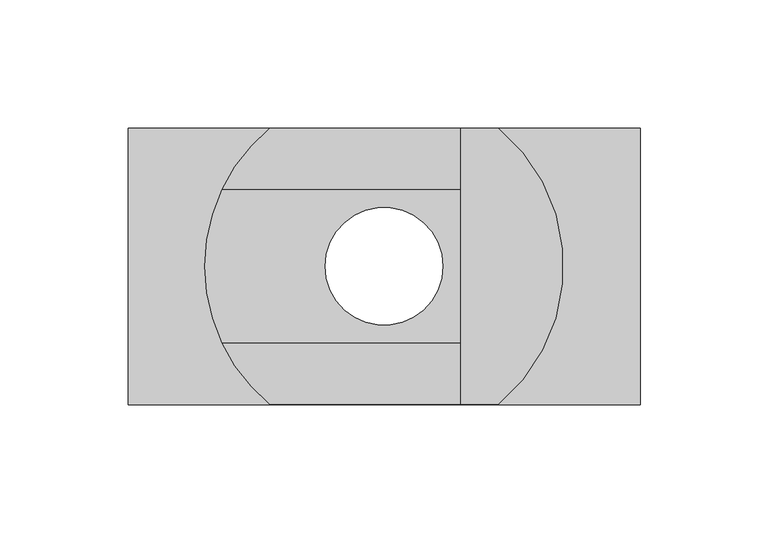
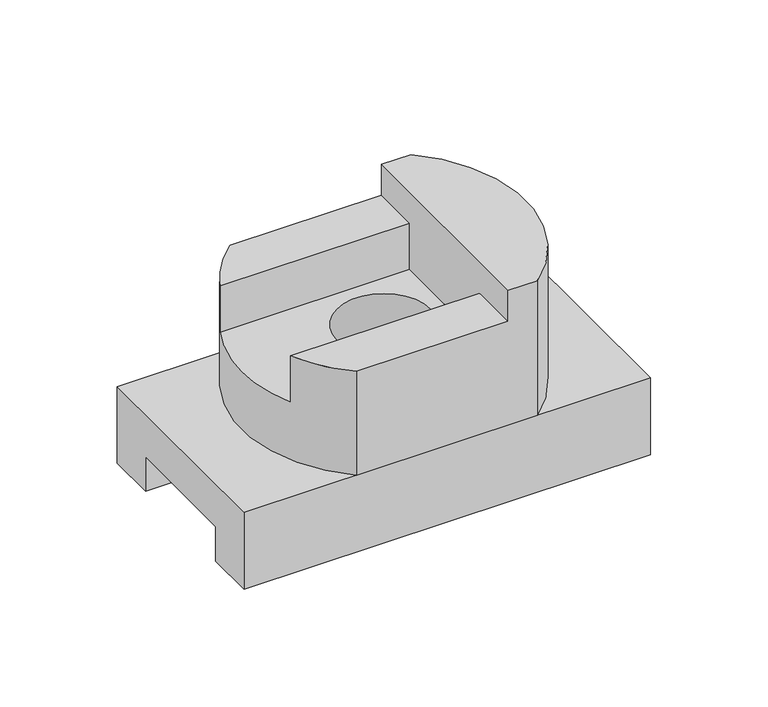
"""IFC4 building model written with IfcOpenShell, lengths in millimetres: proxy geometry, 族5-11-1 : 族5-11-1."""

from ifc_helpers import new_model, si_unit, frame, origin, place, context, project, spatial, polyline, circle_curve, faceted_brep, source, transform, mapped, element, save
from ifc_brep_helpers import plane_surface, cylinder_surface, revolved_surface, advanced_brep


def generic_models_49068c69(model_context):
    return source(origin(), model_context, "Body", "SolidModel", [
        advanced_brep(
        [(44.5421149, -54.0, 110.0), (44.5421149, 54.0, 110.0), (30.0, 54.0, 110.0), (30.0, -54.0, 110.0), (44.5421149, 54.0, 40.0), (44.5421149, -54.0, 40.0), (-44.5421149, -54.0, 40.0), (-44.5421149, 54.0, 40.0), (-23.0, 0.0, 40.0), (23.0, 0.0, 40.0), (-44.5421149, 54.0, 94.0), (30.0, 54.0, 94.0), (-44.5421149, -54.0, 94.0), (-63.2455532, -30.0, 94.0), (-63.2455532, -30.0, 70.0), (-70.0, 0.0, 70.0), (-63.2455532, 30.0, 70.0), (-63.2455532, 30.0, 94.0), (30.0, -54.0, 94.0), (-23.0, 0.0, 70.0), (23.0, 0.0, 70.0), (30.0, 30.0, 94.0), (30.0, 30.0, 70.0), (30.0, -30.0, 70.0), (30.0, -30.0, 94.0)],
        [
            (0, 1, circle_curve(frame((0.0, 0.0, 110.0), z_axis=(0.0, 0.0, 1.0), x_axis=(1.0, 0.0, 0.0)), 70.0)),
            (1, 2),
            (2, 3),
            (3, 0),
            (4, 5, circle_curve(frame((0.0, 0.0, 40.0), z_axis=(0.0, 0.0, -1.0), x_axis=(1.0, 0.0, 0.0)), 70.0)),
            (5, 6),
            (6, 7, circle_curve(frame((0.0, 0.0, 40.0), z_axis=(0.0, 0.0, -1.0), x_axis=(1.0, 0.0, 0.0)), 70.0)),
            (7, 4),
            (8, 9, circle_curve(frame((0.0, 0.0, 40.0), z_axis=(0.0, 0.0, 1.0), x_axis=(1.0, 0.0, 0.0)), 23.0)),
            (9, 8, circle_curve(frame((0.0, 0.0, 40.0), z_axis=(0.0, 0.0, 1.0), x_axis=(1.0, 0.0, 0.0)), 23.0)),
            (7, 10),
            (10, 11),
            (11, 2),
            (1, 4),
            (6, 12),
            (12, 13, circle_curve(frame((0.0, 0.0, 94.0), z_axis=(0.0, 0.0, -1.0), x_axis=(1.0, 0.0, 0.0)), 70.0)),
            (13, 14),
            (14, 15, circle_curve(frame((0.0, 0.0, 70.0), z_axis=(0.0, 0.0, -1.0), x_axis=(1.0, 0.0, 0.0)), 70.0)),
            (15, 16, circle_curve(frame((0.0, 0.0, 70.0), z_axis=(0.0, 0.0, -1.0), x_axis=(1.0, 0.0, 0.0)), 70.0)),
            (16, 17),
            (17, 10, circle_curve(frame((0.0, 0.0, 94.0), z_axis=(0.0, 0.0, -1.0), x_axis=(1.0, 0.0, 0.0)), 70.0)),
            (5, 0),
            (3, 18),
            (18, 12),
            (8, 19),
            (19, 20, circle_curve(frame((0.0, 0.0, 70.0), z_axis=(0.0, 0.0, 1.0), x_axis=(1.0, 0.0, 0.0)), 23.0)),
            (20, 9),
            (20, 19, circle_curve(frame((0.0, 0.0, 70.0), z_axis=(0.0, 0.0, 1.0), x_axis=(1.0, 0.0, 0.0)), 23.0)),
            (11, 21),
            (21, 22),
            (22, 23),
            (23, 24),
            (24, 18),
            (17, 21),
            (24, 13),
            (16, 22),
            (23, 14),
        ],
        [
            plane_surface(frame((-44.5421149, 54.0, 110.0), z_axis=(0.0, 0.0, 1.0), x_axis=(-1.0, 0.0, 0.0))),
            plane_surface(frame((-44.5421149, 54.0, 40.0), z_axis=(0.0, 0.0, -1.0), x_axis=(1.0, 0.0, 0.0))),
            plane_surface(frame((44.5421149, 54.0, 110.0), z_axis=(0.0, 1.0, 0.0), x_axis=(0.0, 0.0, -1.0))),
            cylinder_surface(frame((0.0, 0.0, 40.0), z_axis=(0.0, 0.0, 1.0), x_axis=(1.0, 0.0, 0.0)), 70.0),
            plane_surface(frame((-44.5421149, -54.0, 110.0), z_axis=(0.0, -1.0, 0.0), x_axis=(0.0, 0.0, -1.0))),
            revolved_surface(polyline([(23.0, 0.0, 70.0), (23.0, 0.0, 40.0)]), (0.0, 0.0, 18.0), (0.0, 0.0, 1.0)),
            plane_surface(frame((30.0, -250.0, 94.0), z_axis=(-1.0, 0.0, 0.0), x_axis=(0.0, 1.0, 0.0))),
            plane_surface(frame((-70.0, -250.0, 94.0), z_axis=(0.0, 0.0, 1.0), x_axis=(0.0, 1.0, 0.0))),
            plane_surface(frame((30.0, 30.0, 70.0), z_axis=(0.0, -1.0, 0.0), x_axis=(-1.0, 0.0, 0.0))),
            plane_surface(frame((30.0, -30.0, 70.0), z_axis=(0.0, 1.0, 0.0), x_axis=(1.0, 0.0, 0.0))),
            plane_surface(frame((30.0, 30.0, 70.0), z_axis=(0.0, 0.0, 1.0), x_axis=(0.0, -1.0, 0.0))),
        ],
        [
            (0, [[1, 2, 3, 4]]),
            (1, [[5, 6, 7, 8], [9, 10]]),
            (2, [[-8, 11, 12, 13, -2, 14]]),
            (3, [[-7, 15, 16, 17, 18, 19, 20, 21, -11]]),
            (4, [[-6, 22, -4, 23, 24, -15]]),
            (3, [[-1, -22, -5, -14]]),
            (5, [[-9, 25, 26, 27]]),
            (5, [[-10, -27, 28, -25]]),
            (6, [[-3, -13, 29, 30, 31, 32, 33, -23]]),
            (7, [[-12, -21, 34, -29]]),
            (7, [[-24, -33, 35, -16]]),
            (8, [[-30, -34, -20, 36]]),
            (9, [[-32, 37, -17, -35]]),
            (10, [[-31, -36, -19, -18, -37], [-26, -28]]),
        ],
    ),
        faceted_brep([(100.0, 54.0, 40.0), (0.0, 54.0, 40.0), (-100.0, 54.0, 40.0), (-100.0, -54.0, 40.0), (100.0, -54.0, 40.0), (44.0, 43.0, 40.0), (44.0, -43.0, 40.0), (0.0, -43.0, 40.0), (-44.0, -43.0, 40.0), (-44.0, 43.0, 40.0), (100.0, -54.0, 0.0), (-100.0, -54.0, 0.0), (-100.0, -30.0, 0.0), (-44.0, -30.0, 0.0), (-44.0, -43.0, 0.0), (0.0, -43.0, 0.0), (44.0, -43.0, 0.0), (44.0, -30.0, 0.0), (100.0, -30.0, 0.0), (-100.0, 54.0, 0.0), (0.0, 54.0, 0.0), (100.0, 54.0, 0.0), (100.0, 30.0, 0.0), (44.0, 30.0, 0.0), (44.0, 43.0, 0.0), (-44.0, 43.0, 0.0), (-44.0, 30.0, 0.0), (-100.0, 30.0, 0.0), (-100.0, 30.0, 18.0), (-100.0, -30.0, 18.0), (100.0, -30.0, 18.0), (100.0, 30.0, 18.0), (-44.0, 30.0, 18.0), (-44.0, -30.0, 18.0), (44.0, -30.0, 18.0), (44.0, 30.0, 18.0)], [[[0, 1, 2, 3, 4], [5, 6, 7, 8, 9]], [[10, 11, 12, 13, 14, 15, 16, 17, 18]], [[19, 20, 21, 22, 23, 24, 25, 26, 27]], [[1, 0, 21, 20]], [[2, 1, 20, 19]], [[3, 2, 19, 27, 28, 29, 12, 11]], [[4, 3, 11, 10]], [[0, 4, 10, 18, 30, 31, 22, 21]], [[29, 28, 32, 33]], [[31, 30, 34, 35]], [[28, 27, 26, 32]], [[22, 31, 35, 23]], [[12, 29, 33, 13]], [[30, 18, 17, 34]], [[5, 24, 23, 35, 34, 17, 16, 6]], [[24, 5, 9, 25]], [[25, 9, 8, 14, 13, 33, 32, 26]], [[14, 8, 7, 15]], [[6, 16, 15, 7]]]),
    ])


if __name__ == "__main__":
    model = new_model("IFC4")
    model_context = context("Model", 3, world=origin())
    ifc_project = project(units=[si_unit("LENGTHUNIT", "METRE", prefix="MILLI")], contexts=[model_context])
    site = spatial("IfcSite", under=ifc_project)
    building = spatial("IfcBuilding", under=site)
    placement = place(None, origin())
    generic_models_shape = generic_models_49068c69(model_context)
    element("IfcBuildingElementProxy", 1, Name="族5-11-1 : 族5-11-1", ObjectType="族5-11-1 : 族5-11-1", at=placement, inside=building, context=model_context, shape_type="MappedRepresentation", body=[
        mapped(generic_models_shape, transform((0.0, 0.0, 0.0), x_axis=(1.0, 0.0, 0.0), y_axis=(0.0, 1.0, 0.0), z_axis=(0.0, 0.0, 1.0))),
    ])
    save(model, "model.ifc")
